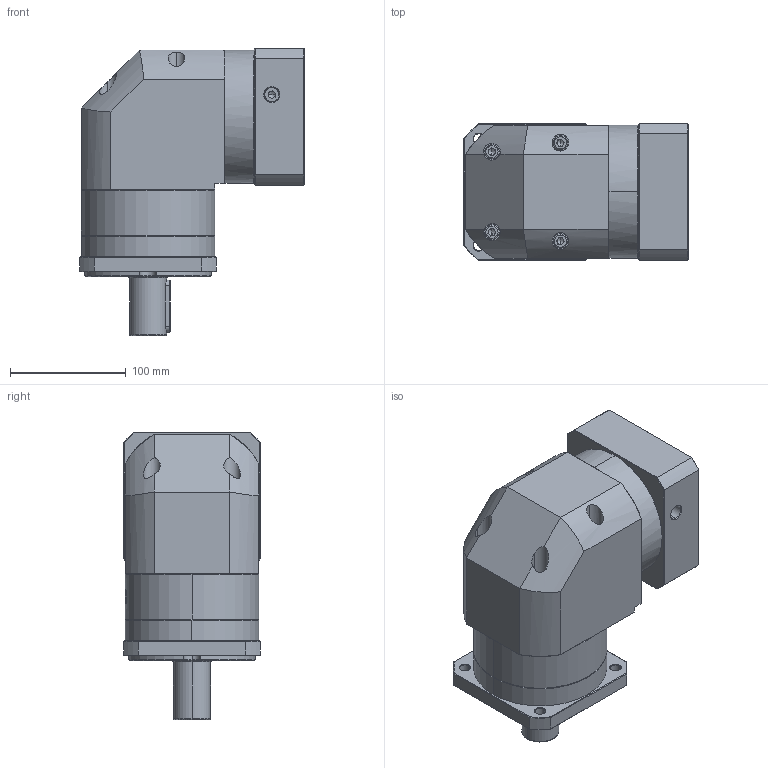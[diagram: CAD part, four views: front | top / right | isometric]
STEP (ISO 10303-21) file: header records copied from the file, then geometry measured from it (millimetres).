
FILE_DESCRIPTION (( 'STEP AP214' ), '1' );
FILE_NAME ('ZFR120A-D32-L1-P2-24-95-130-M8.step', '2023-08-27T08:08:06', ( '' ), ( '' ), 'SwSTEP 2.0', 'SolidWorks 2016', '' );
FILE_SCHEMA (( 'AUTOMOTIVE_DESIGN' ));
Length unit declared in the file: millimetre
Products named in the file (1): ZFR120A-D32-L1-P2-24-95-130-M8
Bounding box: 193.9 x 118 x 248 mm (x, y, z)
Volume: 2910019.9 mm3; surface area: 245036.3 mm2
Topology: 6 solids, 6 shells, 2265 faces, 5983 edges, 3823 vertices
Faces by surface type: plane 1061, cylinder 434, bspline 424, cone 338, torus 8
Entity records: 124448 total; most frequent: CARTESIAN_POINT 48998, ORIENTED_EDGE 11906, DIRECTION 8636, EDGE_CURVE 5953, VERTEX_POINT 3823, LINE 3160, VECTOR 3160, AXIS2_PLACEMENT_3D 2738
